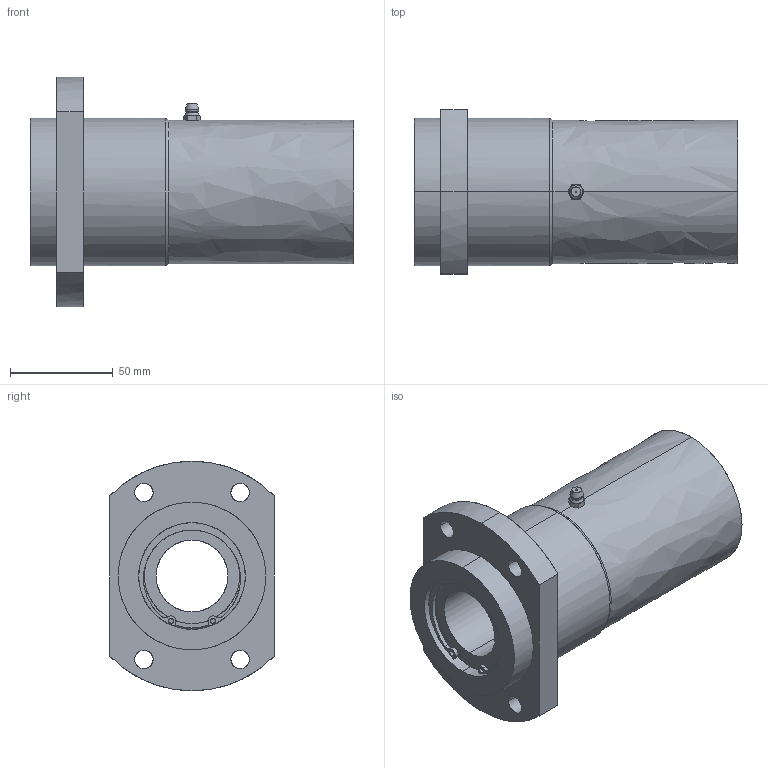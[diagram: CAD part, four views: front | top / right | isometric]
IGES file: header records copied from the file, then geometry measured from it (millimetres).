
Global section: file name: No Iges File Name specified; native system: AutoDesk Inventor R10; preprocessor: AutoDesk Inventor Iges Exporter R10; author: No Author specified; organization: No Organization specified; date: 20101214.135342; units: millimetre
Bounding box: 158 x 80 x 112 mm (x, y, z)
Surface area: 79948.1 mm2 (no closed solid volume)
Topology: 0 solids, 0 shells, 158 faces, 1094 edges, 1092 vertices
Faces by surface type: bspline 158
